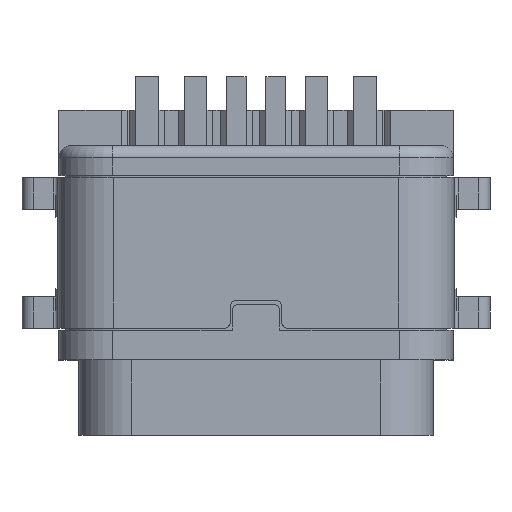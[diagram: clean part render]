
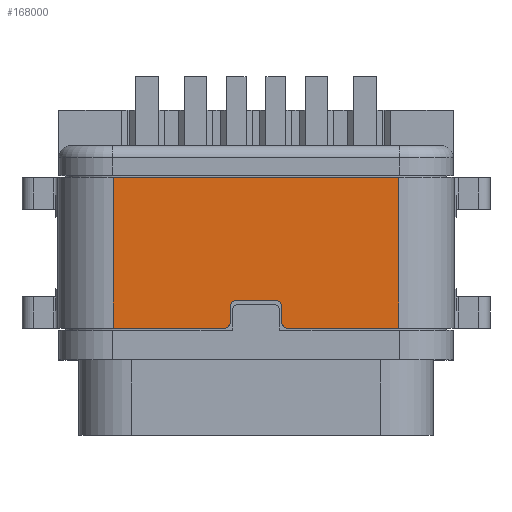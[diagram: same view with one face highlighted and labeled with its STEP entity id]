
A CAD part, top view. The second image highlights one B-rep face of the part: STEP entity #168000.
In plain terms, the highlighted planar face has unit normal (0, 0, 1).
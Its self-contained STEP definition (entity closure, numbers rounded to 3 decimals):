
#64360=CARTESIAN_POINT('',(79.5,-40.,0.95));
#64370=VERTEX_POINT('',#64360);
#64400=CARTESIAN_POINT('',(80.,-40.,0.95));
#64410=DIRECTION('',(-1.,0.,0.));
#64420=VECTOR('',#64410,1.);
#64430=LINE('',#64400,#64420);
#64440=CARTESIAN_POINT('',(80.5,-40.,0.95));
#64450=VERTEX_POINT('',#64440);
#64460=EDGE_CURVE('',#64450,#64370,#64430,.T.);
#67170=CARTESIAN_POINT('',(83.595,-36.9,0.95));
#67180=VERTEX_POINT('',#67170);
#67360=CARTESIAN_POINT('',(83.595,-40.7,0.95));
#67370=VERTEX_POINT('',#67360);
#67400=CARTESIAN_POINT('',(83.595,-41.2,0.95));
#67410=DIRECTION('',(0.,1.,0.));
#67420=VECTOR('',#67410,1.);
#67430=LINE('',#67400,#67420);
#67440=EDGE_CURVE('',#67370,#67180,#67430,.T.);
#165320=CARTESIAN_POINT('',(80.5,-40.15,0.95));
#165330=DIRECTION('',(0.,0.,-1.));
#165340=DIRECTION('',(-1.,0.,0.));
#165350=AXIS2_PLACEMENT_3D('',#165320,#165330,#165340);
#165360=CIRCLE('',#165350,0.15);
#165370=CARTESIAN_POINT('',(80.65,-40.15,0.95));
#165380=VERTEX_POINT('',#165370);
#165390=EDGE_CURVE('',#64450,#165380,#165360,.T.);
#165590=CARTESIAN_POINT('',(80.65,-41.2,0.95));
#165600=DIRECTION('',(0.,1.,0.));
#165610=VECTOR('',#165600,1.);
#165620=LINE('',#165590,#165610);
#165630=CARTESIAN_POINT('',(80.65,-40.55,0.95));
#165640=VERTEX_POINT('',#165630);
#165650=EDGE_CURVE('',#165640,#165380,#165620,.T.);
#165810=CARTESIAN_POINT('',(80.8,-40.55,0.95));
#165820=DIRECTION('',(0.,0.,-1.));
#165830=DIRECTION('',(-1.,0.,0.));
#165840=AXIS2_PLACEMENT_3D('',#165810,#165820,#165830);
#165850=CIRCLE('',#165840,0.15);
#165860=CARTESIAN_POINT('',(80.8,-40.7,0.95));
#165870=VERTEX_POINT('',#165860);
#165880=EDGE_CURVE('',#165870,#165640,#165850,.T.);
#166060=CARTESIAN_POINT('',(79.2,-40.55,0.95));
#166070=DIRECTION('',(0.,0.,-1.));
#166080=DIRECTION('',(-1.,0.,0.));
#166090=AXIS2_PLACEMENT_3D('',#166060,#166070,#166080);
#166100=CIRCLE('',#166090,0.15);
#166110=CARTESIAN_POINT('',(79.35,-40.55,0.95));
#166120=VERTEX_POINT('',#166110);
#166130=CARTESIAN_POINT('',(79.2,-40.7,0.95));
#166140=VERTEX_POINT('',#166130);
#166150=EDGE_CURVE('',#166120,#166140,#166100,.T.);
#166430=CARTESIAN_POINT('',(79.35,-40.15,0.95));
#166440=VERTEX_POINT('',#166430);
#166470=CARTESIAN_POINT('',(79.5,-40.15,0.95));
#166480=DIRECTION('',(0.,0.,1.));
#166490=DIRECTION('',(1.,0.,0.));
#166500=AXIS2_PLACEMENT_3D('',#166470,#166480,#166490);
#166510=CIRCLE('',#166500,0.15);
#166520=EDGE_CURVE('',#64370,#166440,#166510,.T.);
#167030=CARTESIAN_POINT('',(76.86,-40.7,0.95));
#167040=DIRECTION('',(1.,0.,0.));
#167050=VECTOR('',#167040,1.);
#167060=LINE('',#167030,#167050);
#167070=EDGE_CURVE('',#165870,#67370,#167060,.T.);
#167610=CARTESIAN_POINT('',(84.695,-41.1,0.95));
#167620=DIRECTION('',(0.,0.,1.));
#167630=DIRECTION('',(1.,0.,0.));
#167640=AXIS2_PLACEMENT_3D('',#167610,#167620,#167630);
#167650=PLANE('',#167640);
#167660=ORIENTED_EDGE('',*,*,#167070,.T.);
#167670=ORIENTED_EDGE('',*,*,#165880,.F.);
#167680=ORIENTED_EDGE('',*,*,#165650,.F.);
#167690=ORIENTED_EDGE('',*,*,#165390,.T.);
#167700=ORIENTED_EDGE('',*,*,#64460,.F.);
#167710=ORIENTED_EDGE('',*,*,#166520,.F.);
#167720=CARTESIAN_POINT('',(79.35,-41.2,0.95));
#167730=DIRECTION('',(0.,-1.,0.));
#167740=VECTOR('',#167730,1.);
#167750=LINE('',#167720,#167740);
#167760=EDGE_CURVE('',#166440,#166120,#167750,.T.);
#167770=ORIENTED_EDGE('',*,*,#167760,.F.);
#167780=ORIENTED_EDGE('',*,*,#166150,.F.);
#167790=CARTESIAN_POINT('',(76.405,-40.7,0.95));
#167800=VERTEX_POINT('',#167790);
#167810=EDGE_CURVE('',#167800,#166140,#167060,.T.);
#167820=ORIENTED_EDGE('',*,*,#167810,.T.);
#167830=CARTESIAN_POINT('',(76.405,-41.2,0.95));
#167840=DIRECTION('',(0.,-1.,0.));
#167850=VECTOR('',#167840,1.);
#167860=LINE('',#167830,#167850);
#167870=CARTESIAN_POINT('',(76.405,-36.9,0.95));
#167880=VERTEX_POINT('',#167870);
#167890=EDGE_CURVE('',#167880,#167800,#167860,.T.);
#167900=ORIENTED_EDGE('',*,*,#167890,.T.);
#167910=CARTESIAN_POINT('',(80.,-36.9,0.95));
#167920=DIRECTION('',(-1.,0.,0.));
#167930=VECTOR('',#167920,1.);
#167940=LINE('',#167910,#167930);
#167950=EDGE_CURVE('',#67180,#167880,#167940,.T.);
#167960=ORIENTED_EDGE('',*,*,#167950,.T.);
#167970=ORIENTED_EDGE('',*,*,#67440,.T.);
#167980=EDGE_LOOP('',(#167970,#167960,#167900,#167820,#167780,#167770,
#167710,#167700,#167690,#167680,#167670,#167660));
#167990=FACE_OUTER_BOUND('',#167980,.T.);
#168000=ADVANCED_FACE('',(#167990),#167650,.T.);
